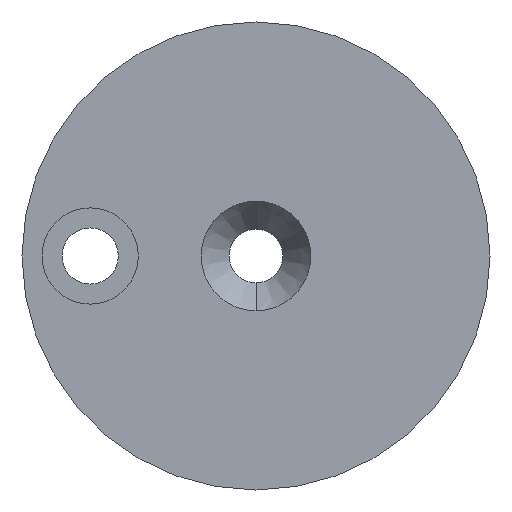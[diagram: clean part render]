
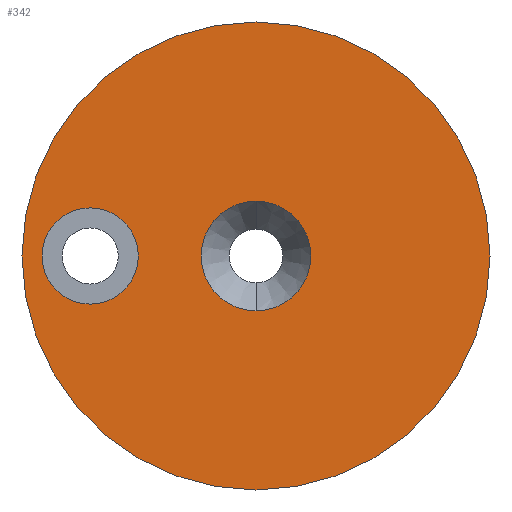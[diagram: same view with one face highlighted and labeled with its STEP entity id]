
A CAD part, left-side view. The second image highlights one B-rep face of the part: STEP entity #342.
In plain terms, the highlighted planar face has unit normal (-1, 0, 0).
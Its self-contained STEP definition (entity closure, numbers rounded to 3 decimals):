
#7 = DIRECTION ( 'NONE',  ( 0., 0., -1. ) ) ;
#11 = ORIENTED_EDGE ( 'NONE', *, *, #191, .F. ) ;
#13 = ORIENTED_EDGE ( 'NONE', *, *, #459, .T. ) ;
#15 = CIRCLE ( 'NONE', #176, 3.6 ) ;
#41 = VERTEX_POINT ( 'NONE', #570 ) ;
#46 = AXIS2_PLACEMENT_3D ( 'NONE', #600, #563, #7 ) ;
#60 = ORIENTED_EDGE ( 'NONE', *, *, #246, .T. ) ;
#66 = DIRECTION ( 'NONE',  ( 0., 0., 1. ) ) ;
#73 = AXIS2_PLACEMENT_3D ( 'NONE', #282, #467, #522 ) ;
#75 = CARTESIAN_POINT ( 'NONE',  ( 0., 12.4, 0. ) ) ;
#83 = EDGE_LOOP ( 'NONE', ( #157, #196 ) ) ;
#88 = DIRECTION ( 'NONE',  ( -1., 0., 0. ) ) ;
#106 = ORIENTED_EDGE ( 'NONE', *, *, #338, .F. ) ;
#130 = DIRECTION ( 'NONE',  ( 0., 0., 1. ) ) ;
#144 = VERTEX_POINT ( 'NONE', #452 ) ;
#148 = DIRECTION ( 'NONE',  ( -1., 0., 0. ) ) ;
#152 = CARTESIAN_POINT ( 'NONE',  ( 0., 12.4, 0. ) ) ;
#157 = ORIENTED_EDGE ( 'NONE', *, *, #441, .F. ) ;
#159 = DIRECTION ( 'NONE',  ( -1., 0., 0. ) ) ;
#160 = CARTESIAN_POINT ( 'NONE',  ( 0., 0., -17.5 ) ) ;
#165 = CIRCLE ( 'NONE', #476, 17.5 ) ;
#170 = PLANE ( 'NONE',  #46 ) ;
#172 = DIRECTION ( 'NONE',  ( 0., 0., 1. ) ) ;
#175 = CARTESIAN_POINT ( 'NONE',  ( 0., 0., -4.101 ) ) ;
#176 = AXIS2_PLACEMENT_3D ( 'NONE', #152, #148, #130 ) ;
#177 = CARTESIAN_POINT ( 'NONE',  ( 0., 12.4, -3.6 ) ) ;
#191 = EDGE_CURVE ( 'NONE', #218, #41, #529, .T. ) ;
#194 = CIRCLE ( 'NONE', #219, 3.6 ) ;
#196 = ORIENTED_EDGE ( 'NONE', *, *, #562, .F. ) ;
#218 = VERTEX_POINT ( 'NONE', #175 ) ;
#219 = AXIS2_PLACEMENT_3D ( 'NONE', #75, #269, #66 ) ;
#243 = AXIS2_PLACEMENT_3D ( 'NONE', #326, #88, #373 ) ;
#246 = EDGE_CURVE ( 'NONE', #577, #527, #458, .T. ) ;
#265 = CARTESIAN_POINT ( 'NONE',  ( 0., 0., 17.5 ) ) ;
#269 = DIRECTION ( 'NONE',  ( -1., 0., 0. ) ) ;
#282 = CARTESIAN_POINT ( 'NONE',  ( 0., 0., 0. ) ) ;
#287 = FACE_BOUND ( 'NONE', #83, .T. ) ;
#293 = FACE_OUTER_BOUND ( 'NONE', #443, .T. ) ;
#295 = AXIS2_PLACEMENT_3D ( 'NONE', #399, #159, #172 ) ;
#296 = VERTEX_POINT ( 'NONE', #177 ) ;
#326 = CARTESIAN_POINT ( 'NONE',  ( 0., 0., 0. ) ) ;
#338 = EDGE_CURVE ( 'NONE', #41, #218, #369, .T. ) ;
#342 = ADVANCED_FACE ( 'NONE', ( #287, #370, #293 ), #170, .F. ) ;
#369 = CIRCLE ( 'NONE', #73, 4.101 ) ;
#370 = FACE_BOUND ( 'NONE', #421, .T. ) ;
#373 = DIRECTION ( 'NONE',  ( 0., 0., 1. ) ) ;
#399 = CARTESIAN_POINT ( 'NONE',  ( 0., 0., 0. ) ) ;
#421 = EDGE_LOOP ( 'NONE', ( #106, #11 ) ) ;
#441 = EDGE_CURVE ( 'NONE', #144, #296, #194, .T. ) ;
#443 = EDGE_LOOP ( 'NONE', ( #13, #60 ) ) ;
#452 = CARTESIAN_POINT ( 'NONE',  ( 0., 12.4, 3.6 ) ) ;
#458 = CIRCLE ( 'NONE', #243, 17.5 ) ;
#459 = EDGE_CURVE ( 'NONE', #527, #577, #165, .T. ) ;
#467 = DIRECTION ( 'NONE',  ( -1., 0., 0. ) ) ;
#476 = AXIS2_PLACEMENT_3D ( 'NONE', #552, #547, #544 ) ;
#522 = DIRECTION ( 'NONE',  ( 0., 0., 1. ) ) ;
#527 = VERTEX_POINT ( 'NONE', #265 ) ;
#529 = CIRCLE ( 'NONE', #295, 4.101 ) ;
#544 = DIRECTION ( 'NONE',  ( 0., 0., 1. ) ) ;
#547 = DIRECTION ( 'NONE',  ( -1., 0., 0. ) ) ;
#552 = CARTESIAN_POINT ( 'NONE',  ( 0., 0., 0. ) ) ;
#562 = EDGE_CURVE ( 'NONE', #296, #144, #15, .T. ) ;
#563 = DIRECTION ( 'NONE',  ( 1., 0., 0. ) ) ;
#570 = CARTESIAN_POINT ( 'NONE',  ( 0., 0., 4.101 ) ) ;
#577 = VERTEX_POINT ( 'NONE', #160 ) ;
#600 = CARTESIAN_POINT ( 'NONE',  ( 0., 4.101, 0. ) ) ;
